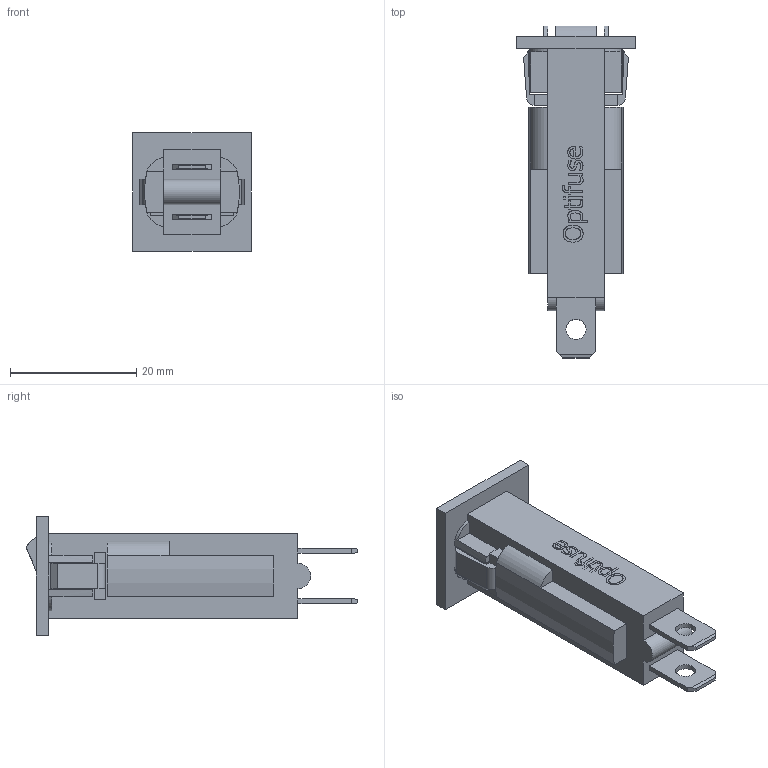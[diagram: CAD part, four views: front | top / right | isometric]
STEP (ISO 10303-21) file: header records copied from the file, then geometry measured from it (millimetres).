
FILE_DESCRIPTION(/* description */ (''),/* implementation_level */ '2;1');
FILE_NAME(/* name */ 'C:\Users\Hani\Desktop\work\CBW28\CBW28.stp',/* time_stamp */ '2021-10-31T16:46:01-07:00',/* author */ ('Hani'),/* organization */ (''),/* preprocessor_version */ 'ST-DEVELOPER v17',/* originating_system */ 'Autodesk Inventor 2019',/* authorisation */ '');
FILE_SCHEMA (('AUTOMOTIVE_DESIGN { 1 0 10303 214 3 1 1 }'));
Length unit declared in the file: inch
Products named in the file (1): CBW28
Bounding box: 18.7 x 52.56 x 18.7 mm (x, y, z)
Volume: 6757.5 mm3; surface area: 3962.5 mm2
Topology: 2 solids, 2 shells, 253 faces, 685 edges, 444 vertices
Faces by surface type: plane 161, bspline 67, cylinder 25
Full cylindrical faces by diameter (mm): 3.21 x2
Entity records: 8543 total; most frequent: CARTESIAN_POINT 2460, ORIENTED_EDGE 1370, DIRECTION 979, EDGE_CURVE 685, LINE 497, VECTOR 497, VERTEX_POINT 444, EDGE_LOOP 277
